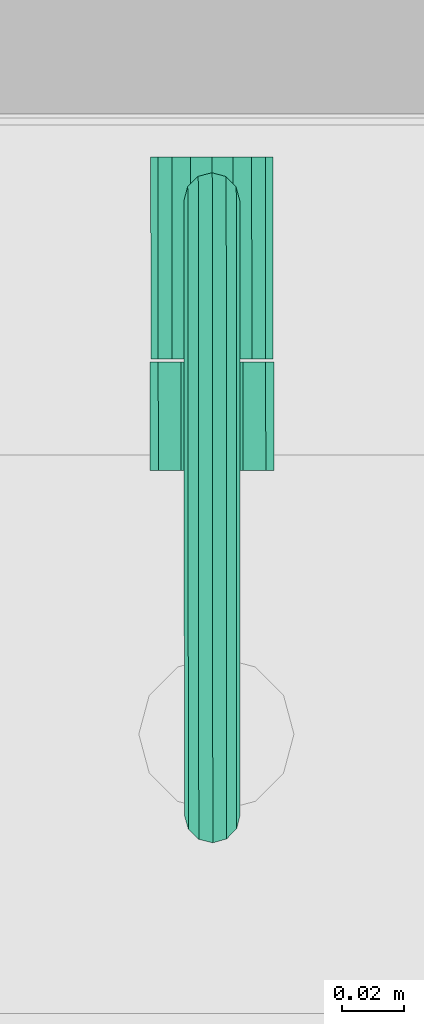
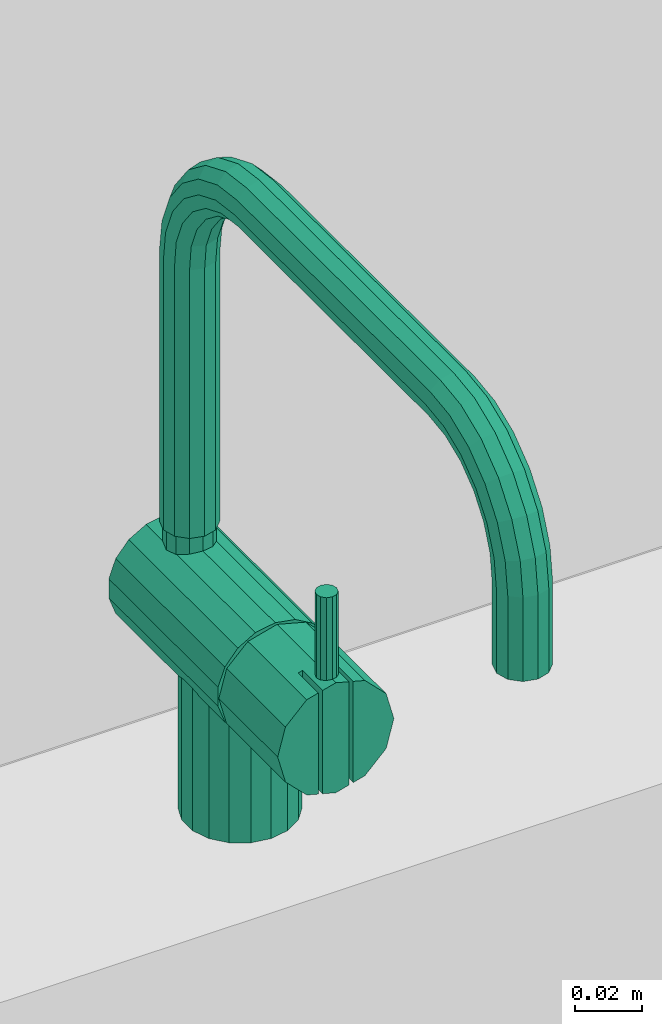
# One storey, part 121 of 194: 1 flow terminal.
"""IFC2X3 building model written with IfcOpenShell, lengths in millimetres."""

from ifc_helpers import new_model, entity, si_unit, converted_unit, derived_unit, money_unit, direction, frame, origin_with_axes, place, context, subcontext, project, spatial, open_shell, faceted_brep, surface_model, source, transform, mapped, type_object, element, save


model = new_model("IFC2X3")

# Units and contexts
model_context = context("Model", 3, precision=1e-05, world=origin_with_axes(), true_north=direction((0.0, 1.0)))
body_context = subcontext(model_context, "Body", "Model", "MODEL_VIEW")
ifc_project = project(units=[si_unit("LENGTHUNIT", "METRE", prefix="MILLI"), si_unit("AREAUNIT", "SQUARE_METRE"), si_unit("VOLUMEUNIT", "CUBIC_METRE"), converted_unit("PLANEANGLEUNIT", "DEGREE", entity("IfcPlaneAngleMeasure", 0.0174532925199), si_unit("PLANEANGLEUNIT", "RADIAN"), dimensions=[0, 0, 0, 0, 0, 0, 0]), si_unit("SOLIDANGLEUNIT", "STERADIAN"), money_unit("EUR"), converted_unit("TIMEUNIT", "Year", entity("IfcTimeMeasure", 31556926.0), si_unit("TIMEUNIT", "SECOND"), dimensions=[0, 0, 1, 0, 0, 0, 0]), si_unit("MASSUNIT", "GRAM", prefix="KILO"), si_unit("THERMODYNAMICTEMPERATUREUNIT", "DEGREE_CELSIUS"), si_unit("LUMINOUSINTENSITYUNIT", "LUMEN"), si_unit("ENERGYUNIT", "JOULE", prefix="MEGA"), derived_unit("THERMALCONDUCTANCEUNIT", [(si_unit("POWERUNIT", "WATT"), 1), (si_unit("LENGTHUNIT", "METRE"), -1), (si_unit("THERMODYNAMICTEMPERATUREUNIT", "KELVIN"), -1)]), derived_unit("SPECIFICHEATCAPACITYUNIT", [(si_unit("ENERGYUNIT", "JOULE"), 1), (si_unit("MASSUNIT", "GRAM", prefix="KILO"), -1), (si_unit("THERMODYNAMICTEMPERATUREUNIT", "KELVIN"), -1)]), derived_unit("MASSDENSITYUNIT", [(si_unit("MASSUNIT", "GRAM", prefix="KILO"), 1), (si_unit("VOLUMEUNIT", "CUBIC_METRE"), -1)])], contexts=[model_context])

# Site, building, storey
site_placement = place(None, origin_with_axes())
site = spatial("IfcSite", under=ifc_project, at=site_placement, Name="Site", CompositionType="ELEMENT")
building_placement = place(site_placement, origin_with_axes())
building = spatial("IfcBuilding", under=site, at=building_placement, Name="Building", CompositionType="ELEMENT")
storey_placement = place(building_placement, frame((0.0, 0.0, 3000.0), z_axis=(0.0, 0.0, 1.0), x_axis=(1.0, 0.0, 0.0)))
storey = spatial("IfcBuildingStorey", under=building, at=storey_placement, Name="2 KORRUS", CompositionType="ELEMENT", Elevation=3000.0)

# Flow terminal
sanitary_terminal_type = type_object("IfcSanitaryTerminalType", Name="Tap 22", PredefinedType="NOTDEFINED")
shared_shape = source(origin_with_axes(), body_context, "Body", "SurfaceModel", [
    surface_model("IfcShellBasedSurfaceModel", [(-6.32737265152, 17.3843134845, 1041.02727338), (0.0, 18.5, 1040.0), (0.0, 18.5, 1000.0), (-6.32737265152, 17.3843134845, 1000.0), (6.32737265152, 17.3843134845, 1041.02727338), (6.32737265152, 17.3843134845, 1000.0), (11.8915707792, 14.1718221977, 1000.0), (16.02146997, 9.25, 1000.0), (18.2189434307, 3.21249128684, 1000.0), (18.2189434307, -3.21249128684, 1000.0), (16.02146997, -9.25, 1000.0), (11.8915707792, -14.1718221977, 1000.0), (6.32737265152, -17.3843134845, 1000.0), (0.0, -18.5, 1000.0), (-6.32737265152, -17.3843134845, 1000.0), (-11.8915707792, -14.1718221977, 1000.0), (-16.02146997, -9.25, 1000.0), (-18.2189434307, -3.21249128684, 1000.0), (-18.2189434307, 3.21249128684, 1000.0), (-16.02146997, 9.25, 1000.0), (-11.8915707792, 14.1718221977, 1000.0), (-11.8915707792, 14.1718221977, 1043.91924926), (11.8915707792, 14.1718221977, 1043.91924926), (16.02146997, 9.25, 1048.02868011), (18.2189434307, 3.21249128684, 1051.74953939), (18.2189434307, -3.21249128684, 1051.74953939), (16.02146997, -9.25, 1048.02868011), (11.8915707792, -14.1718221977, 1043.91924926), (6.32737265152, -17.3843134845, 1041.02727338), (0.0, -18.5, 1040.0), (-6.32737265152, -17.3843134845, 1041.02727338), (-11.8915707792, -14.1718221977, 1043.91924926), (-16.02146997, -9.25, 1048.02868011), (-18.2189434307, -3.21249128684, 1051.74953939), (-18.2189434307, 3.21249128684, 1051.74953939), (-16.02146997, 9.25, 1048.02868011)], [open_shell([[[0, 1, 2, 3]], [[1, 4, 5, 2]], [[3, 2, 5, 6, 7, 8, 9, 10, 11, 12, 13, 14, 15, 16, 17, 18, 19, 20]], [[21, 0, 3, 20]], [[4, 22, 6, 5]], [[22, 23, 7, 6]], [[23, 24, 8, 7]], [[24, 25, 9, 8]], [[25, 26, 10, 9]], [[26, 27, 11, 10]], [[27, 28, 12, 11]], [[28, 29, 13, 12]], [[29, 30, 14, 13]], [[30, 31, 15, 14]], [[31, 32, 16, 15]], [[32, 33, 17, 16]], [[33, 34, 18, 17]], [[34, 35, 19, 18]], [[35, 21, 20, 19]]])]),
    faceted_brep([(-6.84040286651, 44.0, 1041.20614758), (-12.8557521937, 44.0, 1044.67911114), (-17.3205080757, 44.0, 1050.0), (-19.6961550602, 44.0, 1056.52703645), (-19.6961550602, 44.0, 1063.47296355), (-17.3205080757, 44.0, 1070.0), (-12.8557521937, 44.0, 1075.32088886), (-6.84040286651, 44.0, 1078.79385242), (0.0, 44.0, 1080.0), (6.84040286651, 44.0, 1078.79385242), (12.8557521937, 44.0, 1075.32088886), (17.3205080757, 44.0, 1070.0), (19.6961550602, 44.0, 1063.47296355), (19.6961550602, 44.0, 1056.52703645), (17.3205080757, 44.0, 1050.0), (12.8557521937, 44.0, 1044.67911114), (6.84040286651, 44.0, 1041.20614758), (0.0, 44.0, 1040.0), (-6.84040286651, -21.0, 1041.20614758), (-12.8557521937, -21.0, 1044.67911114), (-17.3205080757, -21.0, 1050.0), (-19.6961550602, -21.0, 1056.52703645), (-19.6961550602, -21.0, 1063.47296355), (-17.3205080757, -21.0, 1070.0), (-12.8557521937, -21.0, 1075.32088886), (-6.84040286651, -21.0, 1078.79385242), (0.0, -21.0, 1080.0), (6.84040286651, -21.0, 1078.79385242), (12.8557521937, -21.0, 1075.32088886), (17.3205080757, -21.0, 1070.0), (19.6961550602, -21.0, 1063.47296355), (19.6961550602, -21.0, 1056.52703645), (17.3205080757, -21.0, 1050.0), (12.8557521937, -21.0, 1044.67911114), (6.84040286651, -21.0, 1041.20614758), (0.0, -21.0, 1040.0)], [[[0, 1, 2, 3, 4, 5, 6, 7, 8, 9, 10, 11, 12, 13, 14, 15, 16, 17]], [[1, 0, 18, 19]], [[2, 1, 19, 20]], [[3, 2, 20, 21]], [[4, 3, 21, 22]], [[5, 4, 22, 23]], [[6, 5, 23, 24]], [[7, 6, 24, 25]], [[8, 7, 25, 26]], [[9, 8, 26, 27]], [[10, 9, 27, 28]], [[11, 10, 28, 29]], [[12, 11, 29, 30]], [[13, 12, 30, 31]], [[14, 13, 31, 32]], [[15, 14, 32, 33]], [[16, 15, 33, 34]], [[17, 16, 34, 35]], [[0, 17, 35, 18]], [[18, 35, 34, 33, 32, 31, 30, 29, 28, 27, 26, 25, 24, 23, 22, 21, 20, 19]]]),
    faceted_brep([(4.5, -57.0, 1078.79422863), (4.5, -45.0, 1078.79422863), (6.0, -45.0, 1078.39230485), (6.0, -57.0, 1078.39230485), (10.0, -57.0, 1077.32050808), (10.0, -22.0, 1077.32050808), (0.0, -22.0, 1080.0), (0.0, -57.0, 1080.0), (4.5, -57.0, 1041.20577137), (4.5, -45.0, 1041.20577137), (6.0, -45.0, 1041.60769515), (6.0, -57.0, 1041.60769515), (10.0, -57.0, 1042.67949192), (17.3205080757, -57.0, 1050.0), (20.0, -57.0, 1060.0), (17.3205080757, -57.0, 1070.0), (17.3205080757, -22.0, 1070.0), (20.0, -22.0, 1060.0), (17.3205080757, -22.0, 1050.0), (10.0, -22.0, 1042.67949192), (0.0, -22.0, 1040.0), (-10.0, -22.0, 1042.67949192), (-17.3205080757, -22.0, 1050.0), (-20.0, -22.0, 1060.0), (-17.3205080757, -22.0, 1070.0), (-10.0, -22.0, 1077.32050808), (-10.0, -57.0, 1077.32050808), (-6.0, -57.0, 1078.39230485), (-6.0, -45.0, 1078.39230485), (-4.5, -45.0, 1078.79422863), (-4.5, -57.0, 1078.79422863), (-4.5, -57.0, 1041.20577137), (0.0, -57.0, 1040.0), (-4.5, -45.0, 1041.20577137), (-6.0, -45.0, 1041.60769515), (-6.0, -57.0, 1041.60769515), (-10.0, -57.0, 1042.67949192), (-17.3205080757, -57.0, 1050.0), (-20.0, -57.0, 1060.0), (-17.3205080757, -57.0, 1070.0)], [[[0, 1, 2, 3, 4, 5, 6, 7]], [[1, 0, 8, 9]], [[2, 1, 9, 10]], [[3, 2, 10, 11]], [[3, 11, 12, 13, 14, 15, 4]], [[4, 15, 16, 5]], [[5, 16, 17, 18, 19, 20, 21, 22, 23, 24, 25, 6]], [[6, 25, 26, 27, 28, 29, 30, 7]], [[8, 0, 7, 30, 31, 32]], [[9, 8, 32, 20, 19, 12, 11, 10]], [[13, 12, 19, 18]], [[14, 13, 18, 17]], [[15, 14, 17, 16]], [[32, 31, 33, 34, 35, 36, 21, 20]], [[36, 37, 22, 21]], [[37, 38, 23, 22]], [[38, 39, 24, 23]], [[39, 26, 25, 24]], [[38, 37, 36, 35, 27, 26, 39]], [[27, 35, 34, 28]], [[28, 34, 33, 29]], [[29, 33, 31, 30]]]),
    surface_model("IfcShellBasedSurfaceModel", [(1.75, -48.4689110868, 1079.92329039), (0.0, -48.0, 1080.0), (0.0, -48.0, 1110.0), (1.75, -48.4689110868, 1110.0), (-1.75, -48.4689110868, 1079.92329039), (-1.75, -48.4689110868, 1110.0), (-3.03108891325, -49.75, 1110.0), (-3.5, -51.5, 1110.0), (-3.03108891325, -53.25, 1110.0), (-1.75, -54.5310889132, 1110.0), (0.0, -55.0, 1110.0), (1.75, -54.5310889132, 1110.0), (3.03108891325, -53.25, 1110.0), (3.5, -51.5, 1110.0), (3.03108891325, -49.75, 1110.0), (3.03108891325, -49.75, 1079.76897822), (-3.03108891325, -49.75, 1079.76897822), (-3.5, -51.5, 1079.69136867), (-3.03108891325, -53.25, 1079.76897822), (-1.75, -54.5310889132, 1079.92329039), (0.0, -55.0, 1080.0), (1.75, -54.5310889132, 1079.92329039), (3.03108891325, -53.25, 1079.76897822), (3.5, -51.5, 1079.69136867)], [open_shell([[[0, 1, 2, 3]], [[1, 4, 5, 2]], [[3, 2, 5, 6, 7, 8, 9, 10, 11, 12, 13, 14]], [[15, 0, 3, 14]], [[4, 16, 6, 5]], [[16, 17, 7, 6]], [[17, 18, 8, 7]], [[18, 19, 9, 8]], [[19, 20, 10, 9]], [[20, 21, 11, 10]], [[21, 22, 12, 11]], [[22, 23, 13, 12]], [[23, 15, 14, 13]]])]),
    surface_model("IfcShellBasedSurfaceModel", [(4.0, 36.9282032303, 1079.59591794), (0.0, 38.0, 1080.0), (0.0, 38.0, 1090.0), (4.0, 36.9282032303, 1090.0), (-4.0, 36.9282032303, 1079.59591794), (-4.0, 36.9282032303, 1090.0), (-6.92820323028, 34.0, 1090.0), (-8.0, 30.0, 1090.0), (-6.92820323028, 26.0, 1090.0), (-4.0, 23.0717967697, 1090.0), (0.0, 22.0, 1090.0), (4.0, 23.0717967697, 1090.0), (6.92820323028, 26.0, 1090.0), (8.0, 30.0, 1090.0), (6.92820323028, 34.0, 1090.0), (6.92820323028, 34.0, 1078.76166304), (-6.92820323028, 34.0, 1078.76166304), (-8.0, 30.0, 1078.33030278), (-6.92820323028, 26.0, 1078.76166304), (-4.0, 23.0717967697, 1079.59591794), (0.0, 22.0, 1080.0), (4.0, 23.0717967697, 1079.59591794), (6.92820323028, 26.0, 1078.76166304), (8.0, 30.0, 1078.33030278)], [open_shell([[[0, 1, 2, 3]], [[1, 4, 5, 2]], [[3, 2, 5, 6, 7, 8, 9, 10, 11, 12, 13, 14]], [[15, 0, 3, 14]], [[4, 16, 6, 5]], [[16, 17, 7, 6]], [[17, 18, 8, 7]], [[18, 19, 9, 8]], [[19, 20, 10, 9]], [[20, 21, 11, 10]], [[21, 22, 12, 11]], [[22, 23, 13, 12]], [[23, 15, 14, 13]]])]),
    surface_model("IfcShellBasedSurfaceModel", [(-9.0, 30.0, 1086.0), (-7.79422863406, 25.5, 1086.0), (-7.79422863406, 25.5, 1183.70505442), (-9.0, 30.0, 1184.0), (-4.5, 22.2057713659, 1086.0), (-4.5, 22.2057713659, 1183.48913927), (-7.87157736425, 24.317905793, 1193.73135353), (-7.79422863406, 34.5, 1086.0), (-7.79422863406, 34.5, 1184.29494558), (0.0, 21.0, 1086.0), (0.0, 21.0, 1183.41010883), (-4.63534267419, 21.052944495, 1192.85650978), (-8.99862925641, 28.7219134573, 1194.91140383), (-4.5, 37.7942286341, 1086.0), (-4.5, 37.7942286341, 1184.51086073), (4.5, 22.2057713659, 1086.0), (4.5, 22.2057713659, 1183.48913927), (-0.157071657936, 19.8018733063, 1192.52128627), (-4.63534267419, 17.6344593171, 1201.10946306), (-7.87157736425, 20.5617435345, 1202.79953139), (-8.99862925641, 24.5102687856, 1205.07921351), (-7.71450570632, 33.0849171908, 1196.08046715), (0.0, 39.0, 1086.0), (0.0, 39.0, 1184.58989117), (7.79422863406, 25.5, 1086.0), (7.79422863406, 25.5, 1183.70505442), (4.36328658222, 20.8999157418, 1192.81550585), (-0.157071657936, 16.5127795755, 1200.46186096), (-4.63534267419, 12.1964347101, 1208.19643471), (-7.87157736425, 14.586552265, 1210.58655226), (-8.99862925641, 17.8105096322, 1213.81050963), (-7.71450570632, 28.422030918, 1207.33767043), (-4.36328658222, 36.2378536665, 1196.92529393), (4.5, 37.7942286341, 1086.0), (4.5, 37.7942286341, 1184.51086073), (9.0, 30.0, 1086.0), (9.0, 30.0, 1184.0), (7.71450570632, 24.0528522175, 1193.66033264), (4.36328658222, 17.4972574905, 1201.03024955), (-0.157071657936, 11.2805870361, 1207.28058704), (-4.63534267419, 5.10946306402, 1213.63445932), (-7.87157736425, 6.79953139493, 1216.56174353), (-8.99862925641, 9.07921351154, 1220.51026879), (-7.71450570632, 21.0044500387, 1217.00445004), (-4.36328658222, 31.2488764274, 1208.96975045), (0.157071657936, 37.335896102, 1197.21951352), (7.79422863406, 34.5, 1086.0), (7.79422863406, 34.5, 1184.29494558), (8.99862925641, 28.415855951, 1194.82939596), (7.71450570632, 20.3241029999, 1202.66232957), (4.36328658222, 12.0844098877, 1208.08440989), (-0.157071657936, 4.46186096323, 1212.51277958), (-4.63534267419, -3.14349021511, 1217.05294449), (-7.87157736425, -2.26864647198, 1220.31790579), (-8.99862925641, -1.08859617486, 1224.72191346), (-7.71450570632, 11.3376704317, 1224.42203092), (-4.36328658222, 23.312559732, 1219.31255973), (0.157071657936, 32.2333543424, 1209.53813904), (4.63534267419, 36.0848249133, 1196.88429), (7.87157736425, 32.8198636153, 1196.00944626), (8.99862925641, 24.2358651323, 1204.92078649), (7.71450570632, 14.392519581, 1210.39251958), (4.36328658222, 5.03024955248, 1213.49725749), (-0.157071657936, -3.47871372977, 1215.80187331), (-4.63534267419, -12.5056354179, 1218.28549429), (-7.87157736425, -12.2859849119, 1221.63671342), (-8.99862925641, -11.9897049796, 1226.15707166), (-7.71450570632, 0.0804671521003, 1229.08491719), (-4.36328658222, 12.9697504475, 1227.24887643), (0.157071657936, 24.1163825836, 1220.11638258), (4.63534267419, 31.1116746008, 1208.89053694), (7.87157736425, 28.1843903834, 1207.20046861), (8.99862925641, 17.5864599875, 1213.58645999), (7.71450570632, 6.6623295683, 1216.324103), (4.36328658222, -3.18449414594, 1216.89991574), (-0.157071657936, -12.5898013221, 1217.00137074), (-4.63534267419, -125.494364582, 1218.28549429), (-7.87157736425, -125.714015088, 1221.63671342), (-8.99862925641, -126.01029502, 1226.15707166), (-7.71450570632, -11.6961835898, 1230.63534267), (-4.36328658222, 0.925293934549, 1232.23785367), (0.157071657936, 13.5381390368, 1228.23335434), (4.63534267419, 23.2005349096, 1219.20053491), (7.87157736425, 20.8104173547, 1216.81041735), (8.99862925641, 8.92078648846, 1220.23586513), (7.71450570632, -2.33966736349, 1220.05285222), (4.36328658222, -12.5159304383, 1218.12842264), (-0.157071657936, -125.410198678, 1217.00137074), (-4.63534267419, -134.856509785, 1217.05294449), (-7.87157736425, -135.731353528, 1220.31790579), (-8.99862925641, -136.911403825, 1224.72191346), (-7.71450570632, -126.30381641, 1230.63534267), (-4.36328658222, -11.4840695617, 1233.87157736), (0.157071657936, 1.21951351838, 1233.3358961), (4.63534267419, 12.890536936, 1227.1116746), (7.87157736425, 11.2004686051, 1224.18439038), (8.99862925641, -1.17060403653, 1224.41585595), (7.71450570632, -12.3038164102, 1221.36465733), (4.36328658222, -125.484069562, 1218.12842264), (-0.157071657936, -134.52128627, 1215.80187331), (-4.63534267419, -143.109463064, 1213.63445932), (-7.87157736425, -144.799531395, 1216.56174353), (-8.99862925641, -147.079213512, 1220.51026879), (-7.71450570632, -138.080467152, 1229.08491719), (-4.36328658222, -126.515930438, 1233.87157736), (0.157071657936, -11.4101986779, 1234.99862926), (4.63534267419, 0.884290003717, 1232.08482491), (7.87157736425, 0.00944626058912, 1228.81986362), (8.99862925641, -12.0102950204, 1225.84292834), (7.71450570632, -125.69618359, 1221.36465733), (4.36328658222, -134.815505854, 1216.89991574), (-0.157071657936, -142.461860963, 1212.51277958), (-4.63534267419, -150.19643471, 1208.19643471), (-7.87157736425, -152.586552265, 1210.58655226), (-8.99862925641, -155.810509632, 1213.81050963), (-7.71450570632, -149.337670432, 1224.42203092), (-4.36328658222, -138.925293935, 1232.23785367), (0.157071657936, -126.589801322, 1234.99862926), (4.63534267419, -11.4943645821, 1233.71450571), (7.87157736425, -11.7140150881, 1230.36328658), (8.99862925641, -125.98970498, 1225.84292834), (7.71450570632, -135.660332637, 1220.05285222), (4.36328658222, -143.030249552, 1213.49725749), (-0.157071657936, -149.280587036, 1207.28058704), (-4.63534267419, -155.634459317, 1201.10946306), (-7.87157736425, -158.561743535, 1202.79953139), (-8.99862925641, -162.510268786, 1205.07921351), (-7.71450570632, -159.004450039, 1217.00445004), (-4.36328658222, -150.969750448, 1227.24887643), (0.157071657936, -139.219513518, 1233.3358961), (4.63534267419, -126.505635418, 1233.71450571), (7.87157736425, -126.285984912, 1230.36328658), (8.99862925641, -136.829395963, 1224.41585595), (7.71450570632, -144.662329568, 1216.324103), (4.36328658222, -150.084409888, 1208.08440989), (-0.157071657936, -154.512779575, 1200.46186096), (-4.63534267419, -159.052944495, 1192.85650978), (-7.87157736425, -162.317905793, 1193.73135353), (-8.99862925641, -166.721913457, 1194.91140383), (-7.71450570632, -166.422030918, 1207.33767043), (-4.36328658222, -161.312559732, 1219.31255973), (0.157071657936, -151.538139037, 1228.23335434), (4.63534267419, -138.884290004, 1232.08482491), (7.87157736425, -138.009446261, 1228.81986362), (8.99862925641, -146.920786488, 1220.23586513), (7.71450570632, -152.392519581, 1210.39251958), (4.36328658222, -155.49725749, 1201.03024955), (-0.157071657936, -157.801873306, 1192.52128627), (-4.63534267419, -160.285494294, 1183.49436458), (-7.87157736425, -163.636713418, 1183.71401509), (-8.99862925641, -168.157071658, 1184.01029502), (-7.71450570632, -171.084917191, 1196.08046715), (-4.36328658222, -169.248876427, 1208.96975045), (0.157071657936, -162.116382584, 1220.11638258), (4.63534267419, -150.890536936, 1227.1116746), (7.87157736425, -149.200468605, 1224.18439038), (8.99862925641, -155.586459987, 1213.58645999), (7.71450570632, -158.324103, 1202.66232957), (4.36328658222, -158.899915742, 1192.81550585), (-0.157071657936, -159.001370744, 1183.41019868), (-4.63534267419, -160.285494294, 1154.0), (-7.87157736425, -163.636713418, 1154.0), (-8.99862925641, -168.157071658, 1154.0), (-7.71450570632, -172.635342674, 1184.30381641), (-4.36328658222, -174.237853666, 1196.92529393), (0.157071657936, -170.233354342, 1209.53813904), (4.63534267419, -161.20053491, 1219.20053491), (7.87157736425, -158.810417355, 1216.81041735), (8.99862925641, -162.235865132, 1204.92078649), (7.71450570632, -162.052852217, 1193.66033264), (4.36328658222, -160.128422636, 1183.48406956), (-0.157071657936, -159.001370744, 1154.0), (-7.71450570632, -172.635342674, 1154.0), (-4.36328658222, -175.871577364, 1184.51593044), (0.157071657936, -175.335896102, 1197.21951352), (4.63534267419, -169.111674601, 1208.89053694), (7.87157736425, -166.184390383, 1207.20046861), (8.99862925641, -166.415855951, 1194.82939596), (7.71450570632, -163.364657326, 1183.69618359), (4.36328658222, -160.128422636, 1154.0), (-4.36328658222, -175.871577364, 1154.0), (0.157071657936, -176.998629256, 1184.58980132), (4.63534267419, -174.084824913, 1196.88429), (7.87157736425, -170.819863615, 1196.00944626), (8.99862925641, -167.842928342, 1183.98970498), (7.71450570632, -163.364657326, 1154.0), (0.157071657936, -176.998629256, 1154.0), (4.63534267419, -175.714505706, 1184.50563542), (7.87157736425, -172.363286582, 1184.28598491), (8.99862925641, -167.842928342, 1154.0), (4.63534267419, -175.714505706, 1154.0), (7.87157736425, -172.363286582, 1154.0)], [open_shell([[[0, 1, 2, 3]], [[1, 4, 5, 2]], [[3, 2, 6]], [[7, 0, 3, 8]], [[4, 9, 10, 5]], [[2, 5, 11]], [[2, 11, 6]], [[3, 6, 12]], [[8, 3, 12]], [[13, 7, 8, 14]], [[9, 15, 16, 10]], [[5, 10, 17]], [[5, 17, 11]], [[6, 11, 18, 19]], [[12, 6, 19, 20]], [[8, 12, 21]], [[14, 8, 21]], [[22, 13, 14, 23]], [[15, 24, 25, 16]], [[10, 16, 26]], [[10, 26, 17]], [[11, 17, 27, 18]], [[19, 18, 28, 29]], [[20, 19, 29, 30]], [[21, 12, 20, 31]], [[14, 21, 32]], [[23, 14, 32]], [[33, 22, 23, 34]], [[24, 35, 36, 25]], [[16, 25, 37]], [[16, 37, 26]], [[17, 26, 38, 27]], [[18, 27, 39, 28]], [[29, 28, 40, 41]], [[30, 29, 41, 42]], [[31, 20, 30, 43]], [[32, 21, 31, 44]], [[23, 32, 45]], [[34, 23, 45]], [[46, 33, 34, 47]], [[35, 46, 47, 36]], [[25, 36, 48]], [[25, 48, 37]], [[26, 37, 49, 38]], [[27, 38, 50, 39]], [[28, 39, 51, 40]], [[41, 40, 52, 53]], [[42, 41, 53, 54]], [[43, 30, 42, 55]], [[44, 31, 43, 56]], [[45, 32, 44, 57]], [[34, 45, 58]], [[47, 34, 58]], [[36, 47, 59]], [[36, 59, 48]], [[37, 48, 60, 49]], [[38, 49, 61, 50]], [[39, 50, 62, 51]], [[40, 51, 63, 52]], [[53, 52, 64, 65]], [[54, 53, 65, 66]], [[55, 42, 54, 67]], [[56, 43, 55, 68]], [[57, 44, 56, 69]], [[58, 45, 57, 70]], [[47, 58, 59]], [[48, 59, 71, 60]], [[49, 60, 72, 61]], [[50, 61, 73, 62]], [[51, 62, 74, 63]], [[52, 63, 75, 64]], [[65, 64, 76, 77]], [[66, 65, 77, 78]], [[67, 54, 66, 79]], [[68, 55, 67, 80]], [[69, 56, 68, 81]], [[70, 57, 69, 82]], [[59, 58, 70, 71]], [[60, 71, 83, 72]], [[61, 72, 84, 73]], [[62, 73, 85, 74]], [[63, 74, 86, 75]], [[64, 75, 87, 76]], [[77, 76, 88, 89]], [[78, 77, 89, 90]], [[79, 66, 78, 91]], [[80, 67, 79, 92]], [[81, 68, 80, 93]], [[82, 69, 81, 94]], [[71, 70, 82, 83]], [[72, 83, 95, 84]], [[73, 84, 96, 85]], [[74, 85, 97, 86]], [[75, 86, 98, 87]], [[76, 87, 99, 88]], [[89, 88, 100, 101]], [[90, 89, 101, 102]], [[91, 78, 90, 103]], [[92, 79, 91, 104]], [[93, 80, 92, 105]], [[94, 81, 93, 106]], [[83, 82, 94, 95]], [[84, 95, 107, 96]], [[85, 96, 108, 97]], [[86, 97, 109, 98]], [[87, 98, 110, 99]], [[88, 99, 111, 100]], [[101, 100, 112, 113]], [[102, 101, 113, 114]], [[103, 90, 102, 115]], [[104, 91, 103, 116]], [[105, 92, 104, 117]], [[106, 93, 105, 118]], [[95, 94, 106, 107]], [[96, 107, 119, 108]], [[97, 108, 120, 109]], [[98, 109, 121, 110]], [[99, 110, 122, 111]], [[100, 111, 123, 112]], [[113, 112, 124, 125]], [[114, 113, 125, 126]], [[115, 102, 114, 127]], [[116, 103, 115, 128]], [[117, 104, 116, 129]], [[118, 105, 117, 130]], [[107, 106, 118, 119]], [[108, 119, 131, 120]], [[109, 120, 132, 121]], [[110, 121, 133, 122]], [[111, 122, 134, 123]], [[112, 123, 135, 124]], [[125, 124, 136, 137]], [[126, 125, 137, 138]], [[127, 114, 126, 139]], [[128, 115, 127, 140]], [[129, 116, 128, 141]], [[130, 117, 129, 142]], [[119, 118, 130, 131]], [[120, 131, 143, 132]], [[121, 132, 144, 133]], [[122, 133, 145, 134]], [[123, 134, 146, 135]], [[124, 135, 147, 136]], [[137, 136, 148, 149]], [[138, 137, 149, 150]], [[139, 126, 138, 151]], [[140, 127, 139, 152]], [[141, 128, 140, 153]], [[142, 129, 141, 154]], [[131, 130, 142, 143]], [[132, 143, 155, 144]], [[133, 144, 156, 145]], [[134, 145, 157, 146]], [[135, 146, 158, 147]], [[136, 147, 159, 148]], [[149, 148, 160, 161]], [[150, 149, 161, 162]], [[151, 138, 150, 163]], [[152, 139, 151, 164]], [[153, 140, 152, 165]], [[154, 141, 153, 166]], [[143, 142, 154, 155]], [[144, 155, 167, 156]], [[145, 156, 168, 157]], [[146, 157, 169, 158]], [[147, 158, 170, 159]], [[148, 159, 171, 160]], [[163, 150, 162, 172]], [[164, 151, 163, 173]], [[165, 152, 164, 174]], [[166, 153, 165, 175]], [[155, 154, 166, 167]], [[156, 167, 176, 168]], [[157, 168, 177, 169]], [[158, 169, 178, 170]], [[159, 170, 179, 171]], [[173, 163, 172, 180]], [[174, 164, 173, 181]], [[175, 165, 174, 182]], [[167, 166, 175, 176]], [[168, 176, 183, 177]], [[169, 177, 184, 178]], [[170, 178, 185, 179]], [[181, 173, 180, 186]], [[182, 174, 181, 187]], [[176, 175, 182, 183]], [[177, 183, 188, 184]], [[178, 184, 189, 185]], [[187, 181, 186, 190]], [[183, 182, 187, 188]], [[184, 188, 191, 189]], [[188, 187, 190, 191]]])]),
])
flow_terminal_placement = place(storey_placement, frame((83198.7438266, 40525.0401679, 40.0), z_axis=(0.0, 0.0, 1.0), x_axis=(0.999999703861, 0.000769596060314, 0.0)))
element("IfcFlowTerminal", 1, at=flow_terminal_placement, inside=storey, type_object=sanitary_terminal_type, Name="Valamu", context=body_context, shape_type="MappedRepresentation", body=[
    mapped(shared_shape, transform((0.0, 0.0, 0.0))),
])

save(model, "model.ifc")
